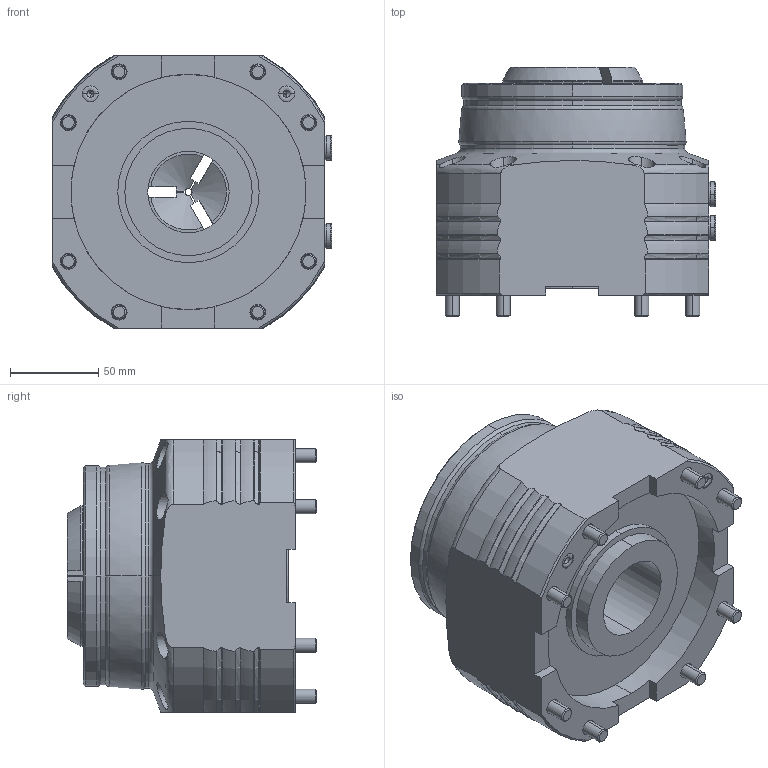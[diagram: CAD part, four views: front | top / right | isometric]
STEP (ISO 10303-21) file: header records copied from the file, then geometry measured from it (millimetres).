
FILE_DESCRIPTION (( 'STEP AP203' ), '1' );
FILE_NAME ('1121_0003~0.STEP', '2016-09-23T05:27:21', ( '' ), ( '' ), 'SwSTEP 2.0', 'SolidWorks 2014', '' );
FILE_SCHEMA (( 'CONFIG_CONTROL_DESIGN' ));
Length unit declared in the file: millimetre
Products named in the file (1): 1121_0003~0
Bounding box: 158 x 141 x 154 mm (x, y, z)
Volume: 1862571.6 mm3; surface area: 201646.8 mm2
Topology: 19 solids, 19 shells, 674 faces, 1688 edges, 1046 vertices
Faces by surface type: plane 242, cylinder 169, cone 125, torus 118, bspline 20
Entity records: 23397 total; most frequent: CARTESIAN_POINT 7620, DIRECTION 3287, ORIENTED_EDGE 3282, EDGE_CURVE 1641, AXIS2_PLACEMENT_3D 1322, VERTEX_POINT 1046, EDGE_LOOP 741, FACE_OUTER_BOUND 674
